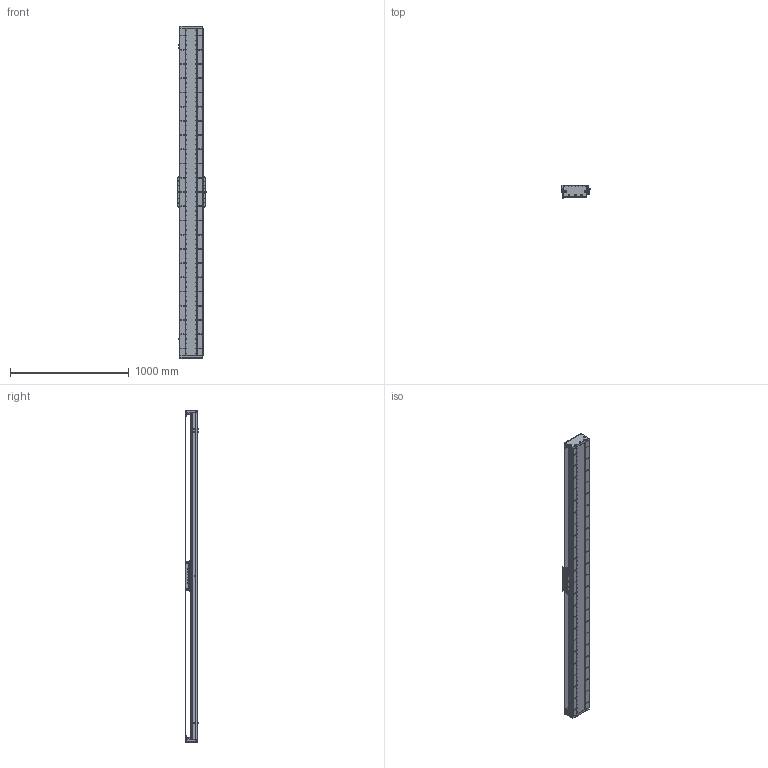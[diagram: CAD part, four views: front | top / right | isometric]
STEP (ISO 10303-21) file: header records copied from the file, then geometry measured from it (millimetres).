
FILE_DESCRIPTION (( 'STEP AP203' ), '1' );
FILE_NAME ('DA-C195-C3-T2460-C010-0.2 眻盄萇儂.STEP', '2025-08-15T01:32:23', ( '' ), ( '' ), 'SwSTEP 2.0', 'SolidWorks 2019', '' );
FILE_SCHEMA (( 'CONFIG_CONTROL_DESIGN' ));
Length unit declared in the file: millimetre
Products named in the file (15): DA-C195-C3-T2460-C010-0.2 眻盄萇儂; MS200 棠掑喜S315-T240; DA-C195-GD-DB-H-00 傷啣; DA195詩湍嶺輸; DA95-HXJ-00 遣喳砎蝶; CU195-C3賑輸-俋楷; DA195詩湍郪璃; 葩璃 DA95-GT-T-00; DA165-GYP-00 光电感应片(默认); LMT黍杅芛; PM-T45ㄗ侂狟ㄘ; DA195詩湍菜輸; IU-CU195-L-00 菁釱(L2760); IU-CU195-L 菁釱絳寢; DA195詩湍裔啣
Assembly tree (29 placements, depth 3):
  DA-C195-C3-T2460-C010-0.2 眻盄萇儂
    DA195詩湍郪璃
      DA195詩湍菜輸  x2
      DA195詩湍裔啣
      DA195詩湍嶺輸  x2
      DA95-HXJ-00 遣喳砎蝶  x8
      DA-C195-GD-DB-H-00 傷啣  x2
    IU-CU195-L 菁釱絳寢
      IU-CU195-L-00 菁釱(L2760)
      葩璃 DA95-GT-T-00  x4
    LMT黍杅芛
    MS200 棠掑喜S315-T240
    PM-T45ㄗ侂狟ㄘ  x3
    DA165-GYP-00 光电感应片(默认)
    CU195-C3賑輸-俋楷
Bounding box: 248 x 115.45 x 2800 mm (x, y, z)
Volume: 16337620.2 mm3; surface area: 4808483.9 mm2
Topology: 86 solids, 118 shells, 4394 faces, 12423 edges, 7841 vertices
Faces by surface type: cylinder 2426, plane 1366, cone 514, torus 52, sphere 36
Entity records: 142631 total; most frequent: CARTESIAN_POINT 38960, ORIENTED_EDGE 21762, DIRECTION 20822, EDGE_CURVE 10881, AXIS2_PLACEMENT_3D 7825, VERTEX_POINT 7043, LINE 5172, VECTOR 5172
